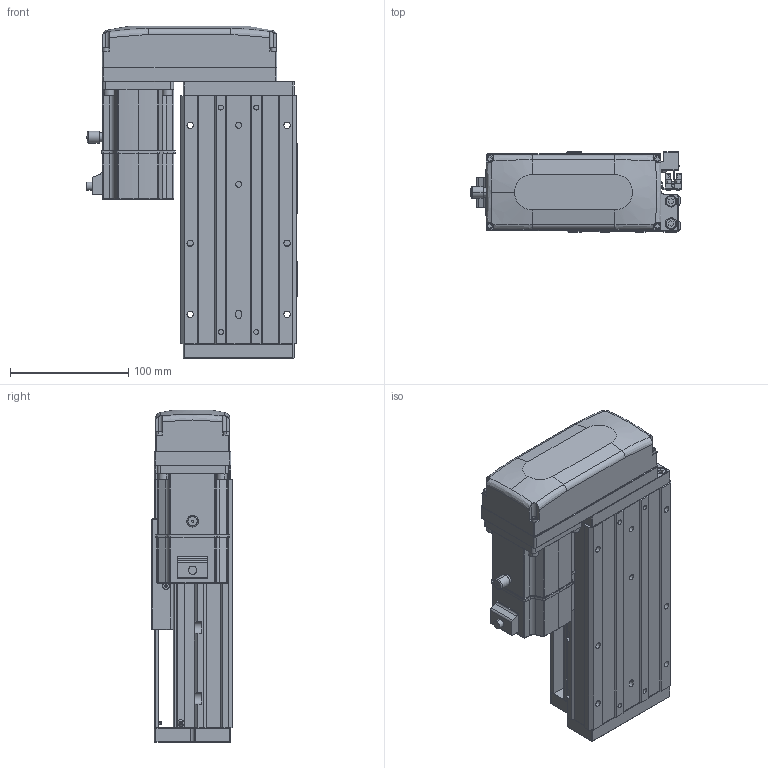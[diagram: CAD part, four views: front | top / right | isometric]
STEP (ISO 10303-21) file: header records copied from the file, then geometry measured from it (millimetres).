
FILE_DESCRIPTION (( 'STEP AP203' ), '1' );
FILE_NAME ('KTHA100-50-BR-M20-C4L.step', '2022-04-26T02:00:00', ( '微软用户' ), ( '微软中国' ), 'SwSTEP 2.0', 'SolidWorks 2020', '' );
FILE_SCHEMA (( 'CONFIG_CONTROL_DESIGN' ));
Length unit declared in the file: millimetre
Products named in the file (17): EE_SX911P_R; GBT 70.3-M3℅6; CTHA60-017; _X2_4E0983F1_X0_200W_1; KTHA100-001_210; CTHA60-021; CTHA86-015-1_CTHA86-015-2; KTHA100-002; GBT77-2000 M3×3; CTHA86-033; KTHA100-004; GBT 70.1-M3℅6; KTHA100-50-BR-M20-C4L; KTHA100-005; GBT70.1 M5℅16; GB¨uT 70.2-M3¡Á5_M3¡Á6; CTHA60-016
Assembly tree (57 placements, depth 2):
  KTHA100-50-BR-M20-C4L
    KTHA100-001_210
    KTHA100-002
    KTHA100-004
    KTHA100-005
    GB¨uT 70.2-M3¡Á5_M3¡Á6  x6
    EE_SX911P_R  x3
    CTHA60-017  x3
    CTHA60-021  x2
    GBT77-2000 M3×3  x6
    GBT 70.1-M3℅6  x10
    GBT70.1 M5℅16  x14
    CTHA60-016  x2
    GBT 70.3-M3℅6  x4
    _X2_4E0983F1_X0_200W_1
    CTHA86-015-1_CTHA86-015-2
    CTHA86-033
Bounding box: 178.52 x 68 x 281 mm (x, y, z)
Volume: 1734001.9 mm3; surface area: 296207.7 mm2
Topology: 60 solids, 60 shells, 2337 faces, 5553 edges, 3436 vertices
Faces by surface type: plane 1184, cylinder 647, cone 299, torus 116, bspline 75, sphere 16
Entity records: 38718 total; most frequent: CARTESIAN_POINT 7888, DIRECTION 5942, ORIENTED_EDGE 5718, EDGE_CURVE 2859, AXIS2_PLACEMENT_3D 2098, VERTEX_POINT 1796, LINE 1746, VECTOR 1746
